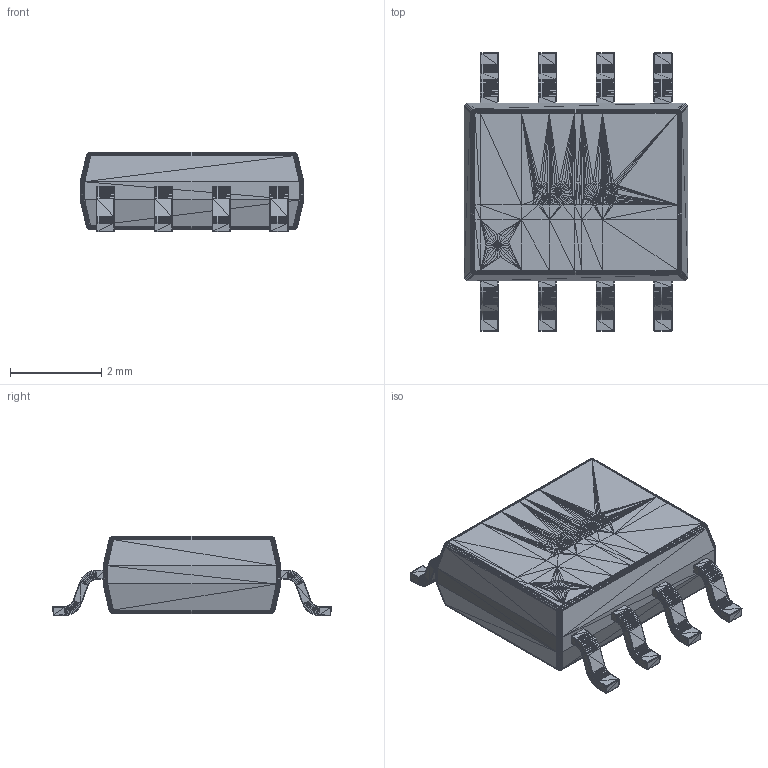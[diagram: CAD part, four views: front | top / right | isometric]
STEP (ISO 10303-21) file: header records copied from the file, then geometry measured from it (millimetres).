
FILE_DESCRIPTION(('auto-generated'),'2;1');
FILE_SCHEMA(('CONFIG_CONTROL_DESIGN'));
Bounding box: 4.9 x 6.11 x 1.75 mm (x, y, z)
Volume: 1 mm3; surface area: 77.7 mm2
Topology: 8 solids, 24 shells, 20328 faces, 30879 edges, 10569 vertices
Faces by surface type: plane 20328
Entity records: 297187 total; most frequent: ORIENTED_EDGE 60984, DIRECTION 34621, LINE 30879, EDGE_CURVE 30879, AXIS2_PLACEMENT_3D 20329, PLANE 20328, EDGE_LOOP 20328, FACE_BOUND 20328
